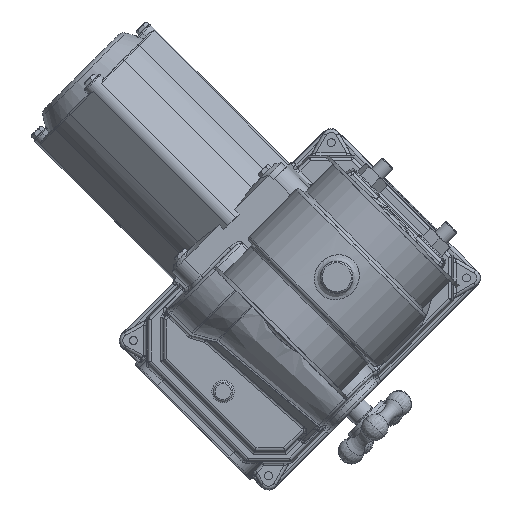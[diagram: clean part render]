
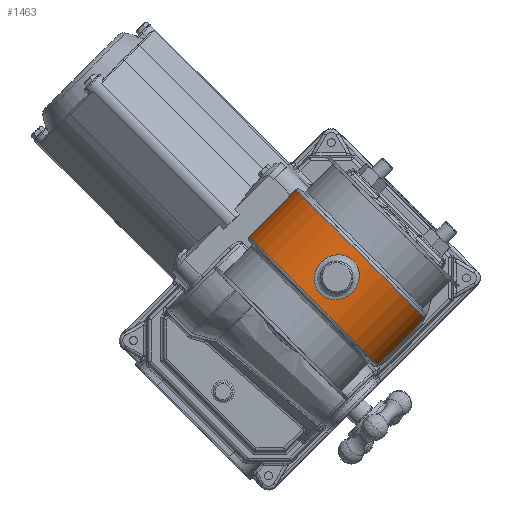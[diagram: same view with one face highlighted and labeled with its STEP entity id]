
A CAD part, top view. The second image highlights one B-rep face of the part: STEP entity #1463.
In plain terms, the highlighted cylindrical face has radius 56.5 mm (diameter 113 mm), a full revolution.
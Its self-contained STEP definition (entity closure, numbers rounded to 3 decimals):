
#600=CARTESIAN_POINT('',(-64.433,57.64,-55.0));
#601=VERTEX_POINT('',#600);
#602=CARTESIAN_POINT('',(-64.433,42.442,-55.0));
#603=VERTEX_POINT('',#602);
#604=CARTESIAN_POINT('',(-64.433,57.64,-55.0));
#605=DIRECTION('',(0.0,-1.0,0.0));
#606=VECTOR('',#605,15.199);
#607=LINE('',#604,#606);
#608=EDGE_CURVE('',#601,#603,#607,.T.);
#625=CARTESIAN_POINT('',(-38.567,42.442,-55.0));
#626=VERTEX_POINT('',#625);
#627=CARTESIAN_POINT('',(-38.567,57.64,-55.0));
#628=VERTEX_POINT('',#627);
#629=CARTESIAN_POINT('',(-38.567,42.442,-55.0));
#630=DIRECTION('',(0.0,1.0,0.0));
#631=VECTOR('',#630,15.199);
#632=LINE('',#629,#631);
#633=EDGE_CURVE('',#626,#628,#632,.T.);
#650=CARTESIAN_POINT('',(-38.567,57.64,-55.));
#651=CARTESIAN_POINT('',(-39.226,58.761,-55.155));
#652=CARTESIAN_POINT('',(-40.025,59.779,-55.329));
#653=CARTESIAN_POINT('',(-42.22,61.974,-55.749));
#654=CARTESIAN_POINT('',(-43.901,63.127,-56.017));
#655=CARTESIAN_POINT('',(-46.67,64.277,-56.301));
#656=CARTESIAN_POINT('',(-47.635,64.568,-56.376));
#657=CARTESIAN_POINT('',(-49.576,64.95,-56.476));
#658=CARTESIAN_POINT('',(-50.553,65.041,-56.5));
#659=CARTESIAN_POINT('',(-52.447,65.041,-56.5));
#660=CARTESIAN_POINT('',(-53.424,64.95,-56.476));
#661=CARTESIAN_POINT('',(-55.365,64.568,-56.376));
#662=CARTESIAN_POINT('',(-56.33,64.277,-56.301));
#663=CARTESIAN_POINT('',(-59.099,63.127,-56.017));
#664=CARTESIAN_POINT('',(-60.78,61.974,-55.749));
#665=CARTESIAN_POINT('',(-62.975,59.779,-55.329));
#666=CARTESIAN_POINT('',(-63.774,58.761,-55.155));
#667=CARTESIAN_POINT('',(-64.433,57.64,-55.0));
#668=B_SPLINE_CURVE_WITH_KNOTS('',3,(#650,#651,#652,#653,#654,#655,#656,#657,#658,#659,#660,#661,#662,#663,#664,#665,#666,#667),.UNSPECIFIED.,.F.,.U.,(4,2,2,2,2,2,2,2,4),(5.308,5.68,6.248,6.532,6.816,7.1,7.384,7.952,8.324),.UNSPECIFIED.);
#669=EDGE_CURVE('',#628,#601,#668,.T.);
#672=CARTESIAN_POINT('',(-64.433,42.442,-55.0));
#673=CARTESIAN_POINT('',(-63.774,41.321,-55.155));
#674=CARTESIAN_POINT('',(-62.975,40.303,-55.329));
#675=CARTESIAN_POINT('',(-60.78,38.108,-55.749));
#676=CARTESIAN_POINT('',(-59.099,36.955,-56.017));
#677=CARTESIAN_POINT('',(-56.33,35.805,-56.301));
#678=CARTESIAN_POINT('',(-55.365,35.514,-56.376));
#679=CARTESIAN_POINT('',(-53.424,35.132,-56.476));
#680=CARTESIAN_POINT('',(-52.447,35.041,-56.5));
#681=CARTESIAN_POINT('',(-50.553,35.041,-56.5));
#682=CARTESIAN_POINT('',(-49.576,35.132,-56.476));
#683=CARTESIAN_POINT('',(-47.635,35.514,-56.376));
#684=CARTESIAN_POINT('',(-46.67,35.805,-56.301));
#685=CARTESIAN_POINT('',(-43.901,36.955,-56.017));
#686=CARTESIAN_POINT('',(-42.22,38.108,-55.749));
#687=CARTESIAN_POINT('',(-40.025,40.303,-55.329));
#688=CARTESIAN_POINT('',(-39.226,41.321,-55.155));
#689=CARTESIAN_POINT('',(-38.567,42.442,-55.0));
#690=B_SPLINE_CURVE_WITH_KNOTS('',3,(#672,#673,#674,#675,#676,#677,#678,#679,#680,#681,#682,#683,#684,#685,#686,#687,#688,#689),.UNSPECIFIED.,.F.,.U.,(4,2,2,2,2,2,2,2,4),(0.764,1.136,1.704,1.988,2.272,2.556,2.84,3.408,3.78),.UNSPECIFIED.);
#691=EDGE_CURVE('',#603,#626,#690,.T.);
#1390=CARTESIAN_POINT('',(-64.93,50.041,54.881));
#1391=VERTEX_POINT('',#1390);
#1401=CARTESIAN_POINT('',(-64.931,50.041,54.88));
#1402=CARTESIAN_POINT('',(-64.931,50.04,54.88));
#1403=CARTESIAN_POINT('',(-64.931,50.04,54.88));
#1404=CARTESIAN_POINT('',(-64.931,50.039,54.88));
#1405=CARTESIAN_POINT('',(-64.931,47.874,54.88));
#1406=CARTESIAN_POINT('',(-64.012,43.543,55.117));
#1407=CARTESIAN_POINT('',(-60.178,38.338,55.9));
#1408=CARTESIAN_POINT('',(-54.635,35.431,56.524));
#1409=CARTESIAN_POINT('',(-48.403,35.416,56.524));
#1410=CARTESIAN_POINT('',(-42.851,38.322,55.907));
#1411=CARTESIAN_POINT('',(-38.565,44.075,55.026));
#1412=CARTESIAN_POINT('',(-37.61,50.828,54.762));
#1413=CARTESIAN_POINT('',(-39.62,57.843,55.261));
#1414=CARTESIAN_POINT('',(-43.401,62.236,56.006));
#1415=CARTESIAN_POINT('',(-49.08,64.658,56.525));
#1416=CARTESIAN_POINT('',(-54.6,64.662,56.524));
#1417=CARTESIAN_POINT('',(-60.163,61.753,55.903));
#1418=CARTESIAN_POINT('',(-64.003,56.573,55.119));
#1419=CARTESIAN_POINT('',(-64.931,52.205,54.88));
#1420=CARTESIAN_POINT('',(-64.931,50.041,54.88));
#1421=B_SPLINE_CURVE_WITH_KNOTS('',3,(#1401,#1402,#1403,#1404,#1405,#1406,#1407,#1408,#1409,#1410,#1411,#1412,#1413,#1414,#1415,#1416,#1417,#1418,#1419,#1420),.UNSPECIFIED.,.T.,.U.,(4,3,1,1,1,1,1,1,1,1,1,1,1,1,1,4),(-6.041,-6.041,-5.609,-5.178,-4.746,-4.315,-3.883,-3.452,-2.877,-2.589,-2.014,-1.726,-1.294,-0.863,-0.431,0.),.UNSPECIFIED.);
#1422=EDGE_CURVE('',#1391,#1391,#1421,.T.);
#1427=CARTESIAN_POINT('',(-51.5,50.041,0.0));
#1428=DIRECTION('',(0.,-1.0,0.0));
#1429=DIRECTION('',(1.0,0.0,0.0));
#1430=AXIS2_PLACEMENT_3D('',#1427,#1428,#1429);
#1431=CYLINDRICAL_SURFACE('',#1430,56.5);
#1432=CARTESIAN_POINT('',(5.,70.541,0.0));
#1433=VERTEX_POINT('',#1432);
#1434=CARTESIAN_POINT('',(-51.5,70.541,0.0));
#1435=DIRECTION('',(0.0,-1.0,0.0));
#1436=DIRECTION('',(1.0,0.0,0.0));
#1437=AXIS2_PLACEMENT_3D('',#1434,#1435,#1436);
#1438=CIRCLE('',#1437,56.5);
#1439=EDGE_CURVE('',#1433,#1433,#1438,.T.);
#1440=ORIENTED_EDGE('',*,*,#1439,.T.);
#1441=EDGE_LOOP('',(#1440));
#1442=FACE_OUTER_BOUND('',#1441,.T.);
#1443=ORIENTED_EDGE('',*,*,#691,.T.);
#1444=ORIENTED_EDGE('',*,*,#633,.T.);
#1445=ORIENTED_EDGE('',*,*,#669,.T.);
#1446=ORIENTED_EDGE('',*,*,#608,.T.);
#1447=EDGE_LOOP('',(#1443,#1444,#1445,#1446));
#1448=FACE_BOUND('',#1447,.T.);
#1449=CARTESIAN_POINT('',(5.,29.541,0.0));
#1450=VERTEX_POINT('',#1449);
#1451=CARTESIAN_POINT('',(-51.5,29.541,0.0));
#1452=DIRECTION('',(0.0,-1.0,0.0));
#1453=DIRECTION('',(1.0,0.0,0.0));
#1454=AXIS2_PLACEMENT_3D('',#1451,#1452,#1453);
#1455=CIRCLE('',#1454,56.5);
#1456=EDGE_CURVE('',#1450,#1450,#1455,.T.);
#1457=ORIENTED_EDGE('',*,*,#1456,.F.);
#1458=EDGE_LOOP('',(#1457));
#1459=FACE_BOUND('',#1458,.T.);
#1460=ORIENTED_EDGE('',*,*,#1422,.F.);
#1461=EDGE_LOOP('',(#1460));
#1462=FACE_BOUND('',#1461,.T.);
#1463=ADVANCED_FACE('',(#1442,#1448,#1459,#1462),#1431,.T.);
